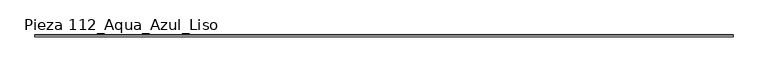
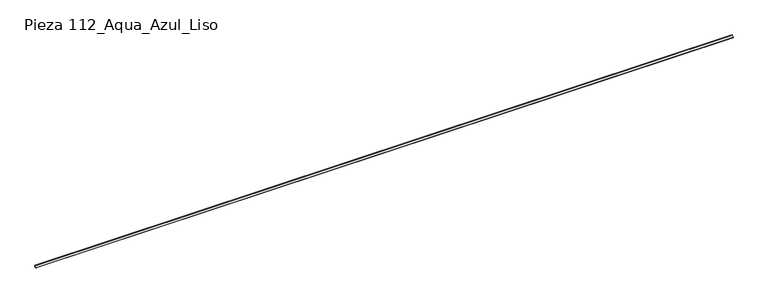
"""IFC4 building model written with IfcOpenShell, lengths in millimetres: slab geometry, ROSA GRES_112 : Pieza 112_Aqua_Azul_Liso."""

from ifc_helpers import new_model, si_unit, point, frame, frame_2d, origin, place, context, project, spatial, polyline, circle_curve, trimmed, segment, composite_curve, outline, extrude, source, transform, mapped, element, save


def pieza_112_aqua_azul_liso_4e2f667c(model_context):
    return source(origin(), model_context, "Body", "SweptSolid", [
        extrude(outline(composite_curve([segment(polyline([(0.0, 8.7114978), (-8.7114978, 0.0), (-40.0, 0.0), (-40.0, 9.9734114)]), True, "CONTINUOUS"), segment(trimmed(circle_curve(frame_2d((-39.9955547, 39.9955547)), 30.0221435), [point((-40.0, 9.9734114))], [point((-9.9734114, 40.0))], True, "CARTESIAN"), True, "CONTINUOUS"), segment(polyline([(-9.9734114, 40.0), (0.0, 40.0), (0.0, 8.7114978)]), True, "CONTINUOUS")], self_intersect=False)), frame((0.0, 0.0, 0.0), z_axis=(1.0, 0.0, 0.0), x_axis=(0.0, 1.0, 0.0)), (0.0, 0.0, 1.0), 16000.7378838),
    ])


if __name__ == "__main__":
    model = new_model("IFC4")
    model_context = context("Model", 3, world=origin())
    ifc_project = project(units=[si_unit("LENGTHUNIT", "METRE", prefix="MILLI")], contexts=[model_context])
    site = spatial("IfcSite", under=ifc_project)
    building = spatial("IfcBuilding", under=site)
    placement = place(None, origin())
    pieza_112_aqua_azul_liso_shape = pieza_112_aqua_azul_liso_4e2f667c(model_context)
    element("IfcSlab", 1, ObjectType="ROSA GRES_112 : Pieza 112_Aqua_Azul_Liso", at=placement, inside=building, context=model_context, shape_type="MappedRepresentation", body=[
        mapped(pieza_112_aqua_azul_liso_shape, transform((0.0, 0.0, 0.0), x_axis=(1.0, 0.0, 0.0), y_axis=(0.0, 1.0, 0.0), z_axis=(0.0, 0.0, 1.0))),
    ])
    save(model, "model.ifc")
